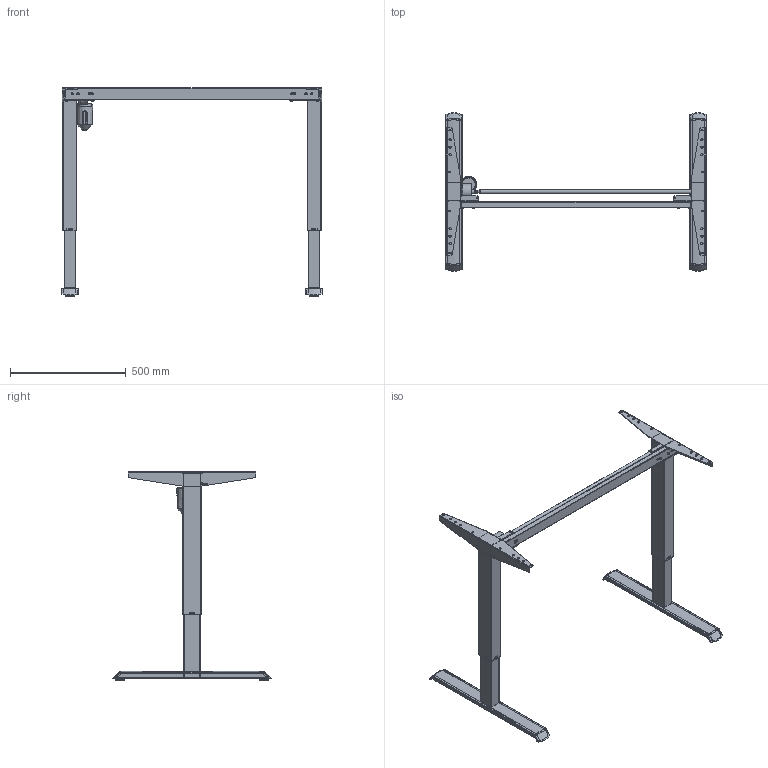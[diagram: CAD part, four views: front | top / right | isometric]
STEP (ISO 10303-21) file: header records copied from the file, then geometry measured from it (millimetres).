
FILE_DESCRIPTION (( 'STEP AP203' ), '1' );
FILE_NAME ('Tech-draw_501-33_XX112.STEP', '2019-09-25T10:14:52', ( '' ), ( '' ), 'SwSTEP 2.0', 'SolidWorks 2018', '' );
FILE_SCHEMA (( 'CONFIG_CONTROL_DESIGN' ));
Length unit declared in the file: millimetre
Products named in the file (27): 345620_shell view; 345610_shell view; 347920_112; 140910_silver; 344820_shell view; 149070_501-33 XS112; 144260_112; 140850_silver1; 348720_shell view; Tech-draw_501-33_XX112; 347910_112; 332570; 340760; 351320; 352600; 345600; 345630_shell view; 140860_silver1; 340560; 324520_silver; 340540_shell view; 140920_silver; 344430_silver; 341220; 140930_silver; 341800_silver; 140950_silver1
Assembly tree (44 placements, depth 6):
  Tech-draw_501-33_XX112
    149070_501-33 XS112
      347910_112
      144260_112
        347920_112
        340560
        341220
      140920_silver
        140860_silver1
          345610_shell view
          344820_shell view
          348720_shell view
        140930_silver
          140950_silver1
            345620_shell view
            345630_shell view
            351320
        324520_silver  x2
        341800_silver  x4
        344430_silver
        352600
      140910_silver
        140850_silver1
          345600
          344820_shell view
          340540_shell view
        140930_silver
          140950_silver1
            345620_shell view
            345630_shell view
            351320
        324520_silver  x2
        341800_silver  x4
      340760  x4
      332570  x4
Bounding box: 1126 x 683.9 x 898.46 mm (x, y, z)
Volume: 2333073.1 mm3; surface area: 2493663.4 mm2
Topology: 38 solids, 38 shells, 2758 faces, 7051 edges, 4399 vertices
Faces by surface type: plane 1435, cylinder 935, bspline 256, cone 69, torus 63
Full cylindrical faces by diameter (mm): 2.8 x4, 3 x2, 4.6 x4, 5 x4, 6 x10, 7 x8, 7.4 x4, 7.6 x4, 8 x12, 10 x8, 11.9 x2, 12 x1, 13 x2, 15 x4, 16 x2, 18 x1, 20 x2, 24 x1, 37.6 x8, 60 x1
Entity records: 72523 total; most frequent: CARTESIAN_POINT 31924, ORIENTED_EDGE 8058, DIRECTION 7389, EDGE_CURVE 4029, AXIS2_PLACEMENT_3D 2717, VERTEX_POINT 2607, LINE 1955, VECTOR 1955
